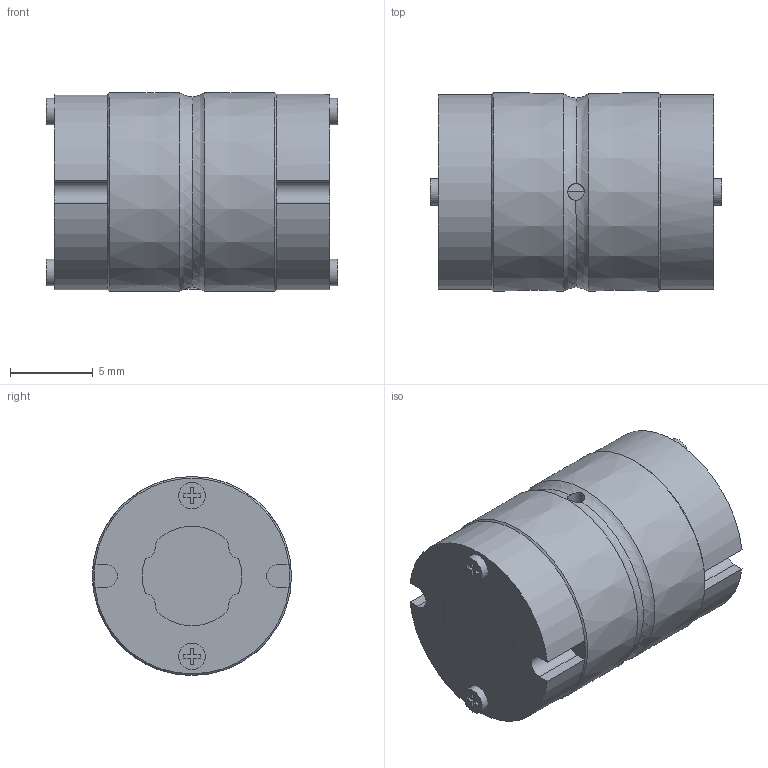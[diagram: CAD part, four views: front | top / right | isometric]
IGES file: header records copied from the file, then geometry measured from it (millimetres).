
Start section: Data from Parasolid IGES Translator 26.0.171, Copyright(c) 2006 Siemens PLM Software. All Rights Reserved.
Global section: file name: LT6X+16.6L(00).igs; native system: By Siemens PLM Incorporated; preprocessor: XPlus GENERIC/IGES 26.0.171; author: Noname; organization: Noname; date: 20240528.070706; units: millimetre
Bounding box: 17.6 x 12 x 12 mm (x, y, z)
Surface area: 1563.3 mm2 (no closed solid volume)
Topology: 0 solids, 0 shells, 143 faces, 778 edges, 765 vertices
Faces by surface type: extrusion 83, revolution 60
